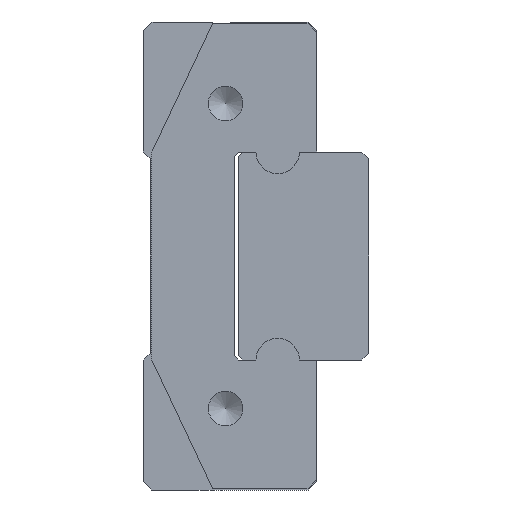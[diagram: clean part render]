
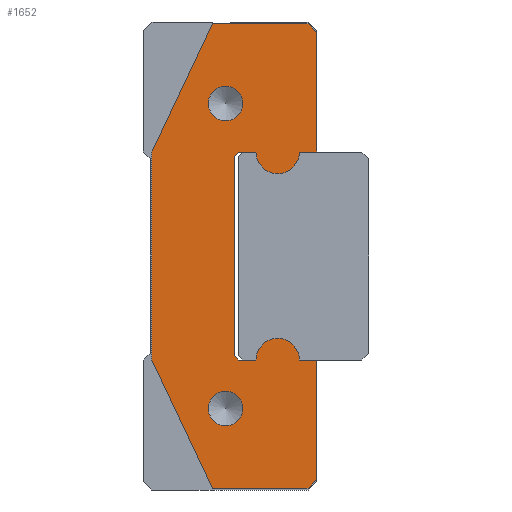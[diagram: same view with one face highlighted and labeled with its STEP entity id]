
A CAD part, left-side view. The second image highlights one B-rep face of the part: STEP entity #1652.
In plain terms, the highlighted planar face has unit normal (-1, 0, 0) as drawn and (0, 0, 1) by its records, which use the part's own axes.
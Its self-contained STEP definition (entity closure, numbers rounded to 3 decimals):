
#118=PLANE('',#1837);
#219=LINE('',#2645,#367);
#223=LINE('',#2654,#371);
#226=LINE('',#2660,#374);
#229=LINE('',#2666,#377);
#233=LINE('',#2678,#381);
#236=LINE('',#2684,#384);
#239=LINE('',#2690,#387);
#242=LINE('',#2696,#390);
#245=LINE('',#2702,#393);
#249=LINE('',#2714,#397);
#252=LINE('',#2720,#400);
#255=LINE('',#2726,#403);
#258=LINE('',#2732,#406);
#261=LINE('',#2738,#409);
#264=LINE('',#2744,#412);
#267=LINE('',#2750,#415);
#367=VECTOR('',#2184,1000.);
#371=VECTOR('',#2190,1000.);
#374=VECTOR('',#2195,1000.);
#377=VECTOR('',#2200,1000.);
#381=VECTOR('',#2212,1000.);
#384=VECTOR('',#2217,1000.);
#387=VECTOR('',#2222,1000.);
#390=VECTOR('',#2227,1000.);
#393=VECTOR('',#2232,1000.);
#397=VECTOR('',#2244,1000.);
#400=VECTOR('',#2249,1000.);
#403=VECTOR('',#2254,1000.);
#406=VECTOR('',#2259,1000.);
#409=VECTOR('',#2264,1000.);
#412=VECTOR('',#2269,1000.);
#415=VECTOR('',#2274,1000.);
#789=ORIENTED_EDGE('',*,*,#1021,.F.);
#790=ORIENTED_EDGE('',*,*,#1022,.F.);
#791=ORIENTED_EDGE('',*,*,#965,.T.);
#792=ORIENTED_EDGE('',*,*,#969,.T.);
#793=ORIENTED_EDGE('',*,*,#972,.T.);
#794=ORIENTED_EDGE('',*,*,#975,.T.);
#795=ORIENTED_EDGE('',*,*,#978,.T.);
#796=ORIENTED_EDGE('',*,*,#981,.T.);
#797=ORIENTED_EDGE('',*,*,#984,.T.);
#798=ORIENTED_EDGE('',*,*,#987,.T.);
#799=ORIENTED_EDGE('',*,*,#990,.T.);
#800=ORIENTED_EDGE('',*,*,#993,.T.);
#801=ORIENTED_EDGE('',*,*,#996,.T.);
#802=ORIENTED_EDGE('',*,*,#999,.T.);
#803=ORIENTED_EDGE('',*,*,#1002,.T.);
#804=ORIENTED_EDGE('',*,*,#1005,.T.);
#805=ORIENTED_EDGE('',*,*,#1008,.T.);
#806=ORIENTED_EDGE('',*,*,#1011,.T.);
#807=ORIENTED_EDGE('',*,*,#1014,.T.);
#808=ORIENTED_EDGE('',*,*,#1017,.T.);
#965=EDGE_CURVE('',#1141,#1142,#219,.T.);
#969=EDGE_CURVE('',#1142,#1145,#223,.T.);
#972=EDGE_CURVE('',#1145,#1147,#226,.T.);
#975=EDGE_CURVE('',#1147,#1149,#229,.T.);
#978=EDGE_CURVE('',#1149,#1151,#1229,.T.);
#981=EDGE_CURVE('',#1151,#1153,#233,.T.);
#984=EDGE_CURVE('',#1153,#1155,#236,.T.);
#987=EDGE_CURVE('',#1155,#1157,#239,.T.);
#990=EDGE_CURVE('',#1157,#1159,#242,.T.);
#993=EDGE_CURVE('',#1159,#1161,#245,.T.);
#996=EDGE_CURVE('',#1161,#1163,#1231,.T.);
#999=EDGE_CURVE('',#1163,#1165,#249,.T.);
#1002=EDGE_CURVE('',#1165,#1167,#252,.T.);
#1005=EDGE_CURVE('',#1167,#1169,#255,.T.);
#1008=EDGE_CURVE('',#1169,#1171,#258,.T.);
#1011=EDGE_CURVE('',#1171,#1173,#261,.T.);
#1014=EDGE_CURVE('',#1173,#1175,#264,.T.);
#1017=EDGE_CURVE('',#1175,#1141,#267,.T.);
#1021=EDGE_CURVE('',#1179,#1179,#1235,.T.);
#1022=EDGE_CURVE('',#1180,#1180,#1236,.T.);
#1141=VERTEX_POINT('',#2646);
#1142=VERTEX_POINT('',#2647);
#1145=VERTEX_POINT('',#2655);
#1147=VERTEX_POINT('',#2661);
#1149=VERTEX_POINT('',#2667);
#1151=VERTEX_POINT('',#2673);
#1153=VERTEX_POINT('',#2679);
#1155=VERTEX_POINT('',#2685);
#1157=VERTEX_POINT('',#2691);
#1159=VERTEX_POINT('',#2697);
#1161=VERTEX_POINT('',#2703);
#1163=VERTEX_POINT('',#2709);
#1165=VERTEX_POINT('',#2715);
#1167=VERTEX_POINT('',#2721);
#1169=VERTEX_POINT('',#2727);
#1171=VERTEX_POINT('',#2733);
#1173=VERTEX_POINT('',#2739);
#1175=VERTEX_POINT('',#2745);
#1179=VERTEX_POINT('',#2759);
#1180=VERTEX_POINT('',#2761);
#1229=CIRCLE('',#1817,1.25);
#1231=CIRCLE('',#1825,1.25);
#1235=CIRCLE('',#1838,1.);
#1236=CIRCLE('',#1839,1.);
#1368=EDGE_LOOP('',(#789));
#1369=EDGE_LOOP('',(#790));
#1370=EDGE_LOOP('',(#791,#792,#793,#794,#795,#796,#797,#798,#799,#800,#801,
#802,#803,#804,#805,#806,#807,#808));
#1520=FACE_BOUND('',#1368,.T.);
#1521=FACE_BOUND('',#1369,.T.);
#1522=FACE_BOUND('',#1370,.T.);
#1652=ADVANCED_FACE('',(#1520,#1521,#1522),#118,.T.);
#1817=AXIS2_PLACEMENT_3D('',#2672,#2205,#2206);
#1825=AXIS2_PLACEMENT_3D('',#2708,#2237,#2238);
#1837=AXIS2_PLACEMENT_3D('',#2757,#2282,#2283);
#1838=AXIS2_PLACEMENT_3D('',#2758,#2284,#2285);
#1839=AXIS2_PLACEMENT_3D('',#2760,#2286,#2287);
#2184=DIRECTION('',(0.,-1.,0.));
#2190=DIRECTION('',(0.707,-0.707,0.));
#2195=DIRECTION('',(1.,0.,0.));
#2200=DIRECTION('',(0.,1.,0.));
#2205=DIRECTION('',(0.,0.,1.));
#2206=DIRECTION('',(1.,0.,0.));
#2212=DIRECTION('',(0.,1.,0.));
#2217=DIRECTION('',(0.707,0.707,0.));
#2222=DIRECTION('',(1.,0.,0.));
#2227=DIRECTION('',(0.707,-0.707,0.));
#2232=DIRECTION('',(0.,-1.,0.));
#2237=DIRECTION('',(0.,0.,1.));
#2238=DIRECTION('',(1.,0.,0.));
#2244=DIRECTION('',(0.,-1.,0.));
#2249=DIRECTION('',(1.,0.,0.));
#2254=DIRECTION('',(0.707,0.707,0.));
#2259=DIRECTION('',(0.,1.,0.));
#2264=DIRECTION('',(-0.904,0.428,0.));
#2269=DIRECTION('',(-1.,0.,0.));
#2274=DIRECTION('',(-0.904,-0.428,0.));
#2282=DIRECTION('',(0.,0.,1.));
#2283=DIRECTION('',(1.,0.,0.));
#2284=DIRECTION('',(0.,0.,1.));
#2285=DIRECTION('',(1.,0.,0.));
#2286=DIRECTION('',(0.,0.,1.));
#2287=DIRECTION('',(1.,0.,0.));
#2645=CARTESIAN_POINT('',(-13.4,6.,0.));
#2646=CARTESIAN_POINT('',(-13.4,6.,0.));
#2647=CARTESIAN_POINT('',(-13.4,0.5,0.));
#2654=CARTESIAN_POINT('',(-13.4,0.5,0.));
#2655=CARTESIAN_POINT('',(-12.9,0.,0.));
#2660=CARTESIAN_POINT('',(-12.9,0.,0.));
#2661=CARTESIAN_POINT('',(-6.,0.,0.));
#2666=CARTESIAN_POINT('',(-6.,0.,0.));
#2667=CARTESIAN_POINT('',(-6.,1.,0.));
#2672=CARTESIAN_POINT('',(-6.,2.25,0.));
#2673=CARTESIAN_POINT('',(-6.,3.5,0.));
#2678=CARTESIAN_POINT('',(-6.,3.5,0.));
#2679=CARTESIAN_POINT('',(-6.,4.5,0.));
#2684=CARTESIAN_POINT('',(-6.,4.5,0.));
#2685=CARTESIAN_POINT('',(-5.75,4.75,0.));
#2690=CARTESIAN_POINT('',(-5.75,4.75,0.));
#2691=CARTESIAN_POINT('',(5.75,4.75,0.));
#2696=CARTESIAN_POINT('',(5.75,4.75,0.));
#2697=CARTESIAN_POINT('',(6.,4.5,0.));
#2702=CARTESIAN_POINT('',(6.,4.5,0.));
#2703=CARTESIAN_POINT('',(6.,3.5,0.));
#2708=CARTESIAN_POINT('',(6.,2.25,0.));
#2709=CARTESIAN_POINT('',(6.,1.,0.));
#2714=CARTESIAN_POINT('',(6.,1.,0.));
#2715=CARTESIAN_POINT('',(6.,0.,0.));
#2720=CARTESIAN_POINT('',(6.,0.,0.));
#2721=CARTESIAN_POINT('',(12.9,0.,0.));
#2726=CARTESIAN_POINT('',(12.9,0.,0.));
#2727=CARTESIAN_POINT('',(13.4,0.5,0.));
#2732=CARTESIAN_POINT('',(13.4,0.5,0.));
#2733=CARTESIAN_POINT('',(13.4,6.,0.));
#2738=CARTESIAN_POINT('',(13.4,6.,0.));
#2739=CARTESIAN_POINT('',(6.,9.5,0.));
#2744=CARTESIAN_POINT('',(6.,9.5,0.));
#2745=CARTESIAN_POINT('',(-6.,9.5,0.));
#2750=CARTESIAN_POINT('',(-6.,9.5,0.));
#2757=CARTESIAN_POINT('',(-6.,2.25,0.));
#2758=CARTESIAN_POINT('',(-8.8,5.25,0.));
#2759=CARTESIAN_POINT('',(-7.8,5.25,0.));
#2760=CARTESIAN_POINT('',(8.8,5.25,0.));
#2761=CARTESIAN_POINT('',(9.8,5.25,0.));
